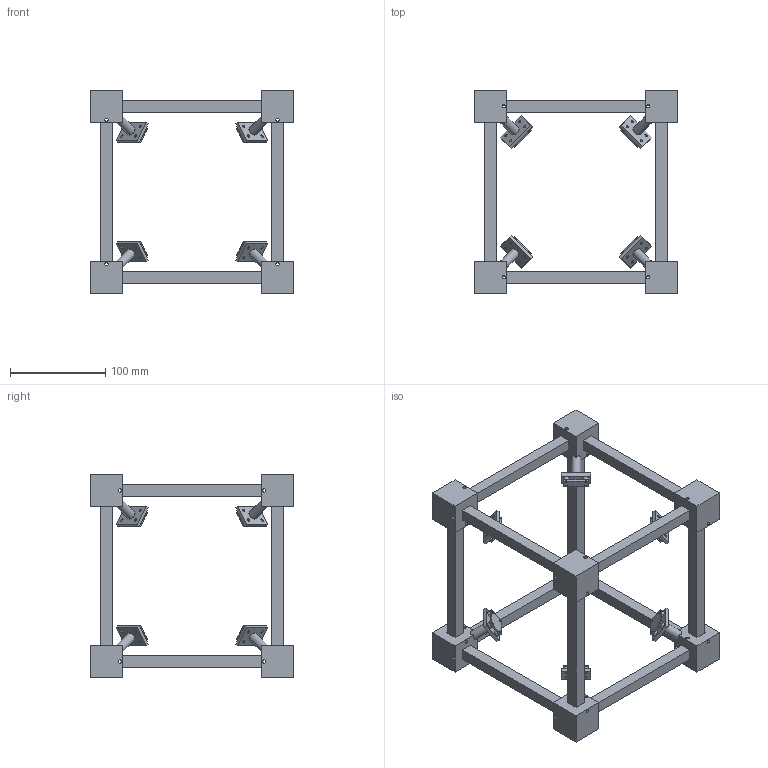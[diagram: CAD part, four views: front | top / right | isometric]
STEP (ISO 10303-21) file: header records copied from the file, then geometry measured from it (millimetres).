
FILE_DESCRIPTION(('Open CASCADE Model'),'2;1');
FILE_NAME('Open CASCADE Shape Model','2026-10-16T03:40:06',('Author'),( 'Open CASCADE'),'Open CASCADE STEP processor 7.9','Open CASCADE 7.9' ,'Unknown');
FILE_SCHEMA(('AUTOMOTIVE_DESIGN { 1 0 10303 214 1 1 1 1 }'));
Length unit declared in the file: millimetre
Products named in the file (29): Open CASCADE STEP translator 7.9 13; Open CASCADE STEP translator 7.9 13.1; Open CASCADE STEP translator 7.9 13.2; Open CASCADE STEP translator 7.9 13.3; Open CASCADE STEP translator 7.9 13.4; Open CASCADE STEP translator 7.9 13.5; Open CASCADE STEP translator 7.9 13.6; Open CASCADE STEP translator 7.9 13.7; Open CASCADE STEP translator 7.9 13.8; Open CASCADE STEP translator 7.9 13.9; Open CASCADE STEP translator 7.9 13.10; Open CASCADE STEP translator 7.9 13.11; Open CASCADE STEP translator 7.9 13.12; Open CASCADE STEP translator 7.9 13.13; Open CASCADE STEP translator 7.9 13.14; Open CASCADE STEP translator 7.9 13.15; Open CASCADE STEP translator 7.9 13.16; Open CASCADE STEP translator 7.9 13.17; Open CASCADE STEP translator 7.9 13.18; Open CASCADE STEP translator 7.9 13.19; Open CASCADE STEP translator 7.9 13.20; Open CASCADE STEP translator 7.9 13.21; Open CASCADE STEP translator 7.9 13.22; Open CASCADE STEP translator 7.9 13.23; Open CASCADE STEP translator 7.9 13.24; Open CASCADE STEP translator 7.9 13.25; Open CASCADE STEP translator 7.9 13.26; Open CASCADE STEP translator 7.9 13.27; Open CASCADE STEP translator 7.9 13.28
Assembly tree (28 placements, depth 2):
  Open CASCADE STEP translator 7.9 13
    Open CASCADE STEP translator 7.9 13.1
    Open CASCADE STEP translator 7.9 13.2
    Open CASCADE STEP translator 7.9 13.3
    Open CASCADE STEP translator 7.9 13.4
    Open CASCADE STEP translator 7.9 13.5
    Open CASCADE STEP translator 7.9 13.6
    Open CASCADE STEP translator 7.9 13.7
    Open CASCADE STEP translator 7.9 13.8
    Open CASCADE STEP translator 7.9 13.9
    Open CASCADE STEP translator 7.9 13.10
    Open CASCADE STEP translator 7.9 13.11
    Open CASCADE STEP translator 7.9 13.12
    Open CASCADE STEP translator 7.9 13.13
    Open CASCADE STEP translator 7.9 13.14
    Open CASCADE STEP translator 7.9 13.15
    Open CASCADE STEP translator 7.9 13.16
    Open CASCADE STEP translator 7.9 13.17
    Open CASCADE STEP translator 7.9 13.18
    Open CASCADE STEP translator 7.9 13.19
    Open CASCADE STEP translator 7.9 13.20
    Open CASCADE STEP translator 7.9 13.21
    Open CASCADE STEP translator 7.9 13.22
    Open CASCADE STEP translator 7.9 13.23
    Open CASCADE STEP translator 7.9 13.24
    Open CASCADE STEP translator 7.9 13.25
    Open CASCADE STEP translator 7.9 13.26
    Open CASCADE STEP translator 7.9 13.27
    Open CASCADE STEP translator 7.9 13.28
Bounding box: 214 x 214 x 214 mm (x, y, z)
Volume: 591231.9 mm3; surface area: 203700.8 mm2
Topology: 28 solids, 28 shells, 568 faces, 1344 edges, 896 vertices
Faces by surface type: plane 392, cylinder 176
Full cylindrical faces by diameter (mm): 2.54 x32, 2.9 x32, 3.4 x72, 6.3 x32, 10 x8
Entity records: 35104 total; most frequent: CARTESIAN_POINT 5949, DIRECTION 5546, LINE 3080, VECTOR 3080, ORIENTED_EDGE 2688, PCURVE 2688, DEFINITIONAL_REPRESENTATION 2688, EDGE_CURVE 1344
